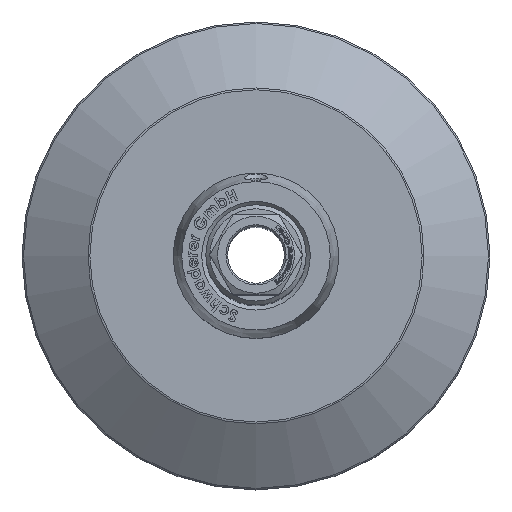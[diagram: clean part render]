
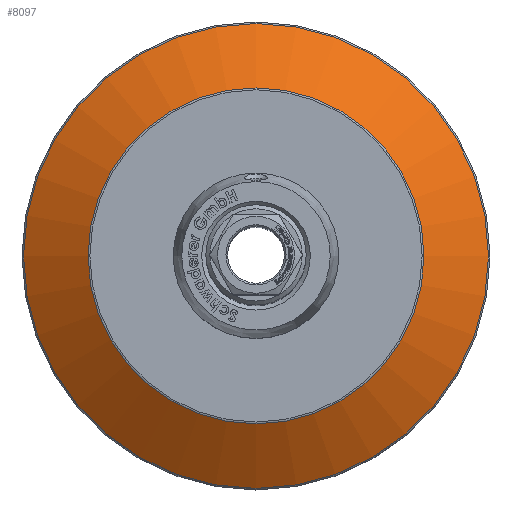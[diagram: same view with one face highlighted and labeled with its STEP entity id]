
A CAD part, top view. The second image highlights one B-rep face of the part: STEP entity #8097.
In plain terms, the highlighted conical face has half-angle 56.976 degrees and reference radius 60 mm.
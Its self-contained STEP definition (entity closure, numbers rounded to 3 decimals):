
#2397=CONICAL_SURFACE('',#8583,60.,56.976);
#2415=FACE_BOUND('',#2981,.T.);
#2500=FACE_OUTER_BOUND('',#2980,.T.);
#2980=EDGE_LOOP('',(#5655));
#2981=EDGE_LOOP('',(#5656));
#3542=CIRCLE('',#8581,50.249);
#3544=CIRCLE('',#8584,69.545);
#3609=VERTEX_POINT('',#10408);
#3611=VERTEX_POINT('',#10413);
#4433=EDGE_CURVE('',#3609,#3609,#3542,.T.);
#4435=EDGE_CURVE('',#3611,#3611,#3544,.T.);
#5655=ORIENTED_EDGE('',*,*,#4435,.F.);
#5656=ORIENTED_EDGE('',*,*,#4433,.F.);
#8097=ADVANCED_FACE('',(#2500,#2415),#2397,.T.);
#8581=AXIS2_PLACEMENT_3D('',#10409,#8942,#8943);
#8583=AXIS2_PLACEMENT_3D('',#10412,#8946,#8947);
#8584=AXIS2_PLACEMENT_3D('',#10414,#8948,#8949);
#8942=DIRECTION('center_axis',(0.,0.,
1.));
#8943=DIRECTION('ref_axis',(-1.,0.,0.));
#8946=DIRECTION('center_axis',(0.,0.,-1.));
#8947=DIRECTION('ref_axis',(1.,0.,0.));
#8948=DIRECTION('center_axis',(0.,0.,
-1.));
#8949=DIRECTION('ref_axis',(-1.,0.,0.));
#10408=CARTESIAN_POINT('',(50.249,0.,-24.029));
#10409=CARTESIAN_POINT('Origin',(0.,0.,-24.029));
#10412=CARTESIAN_POINT('Origin',(0.,0.,-30.367));
#10413=CARTESIAN_POINT('',(69.545,0.,-36.571));
#10414=CARTESIAN_POINT('Origin',(0.,0.,
-36.571));
